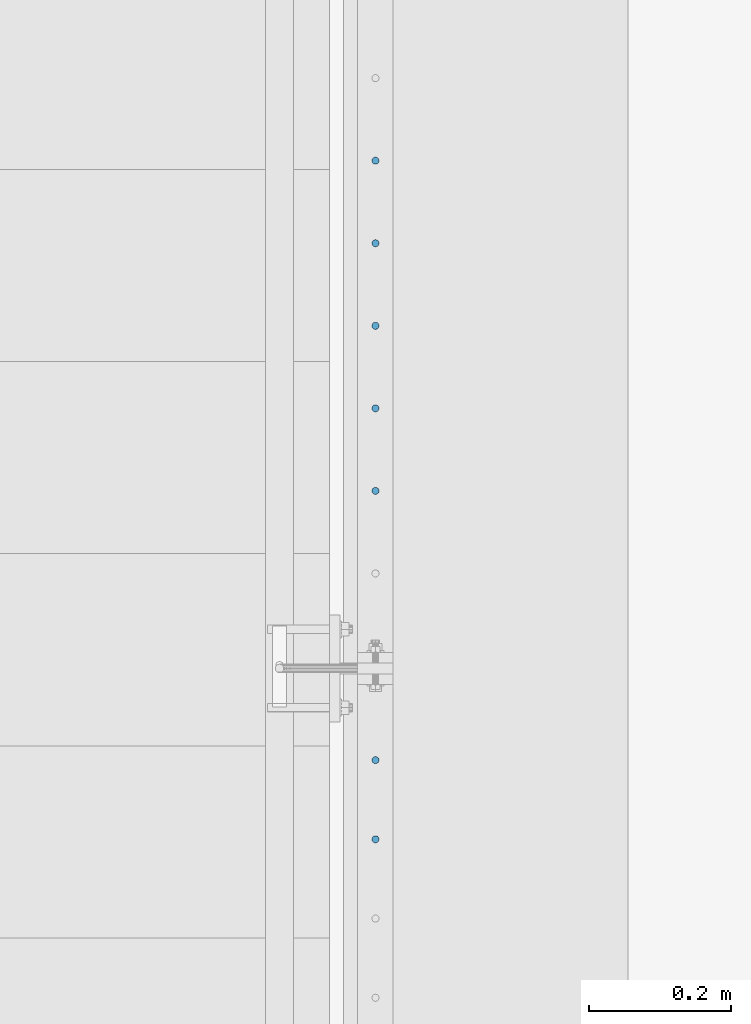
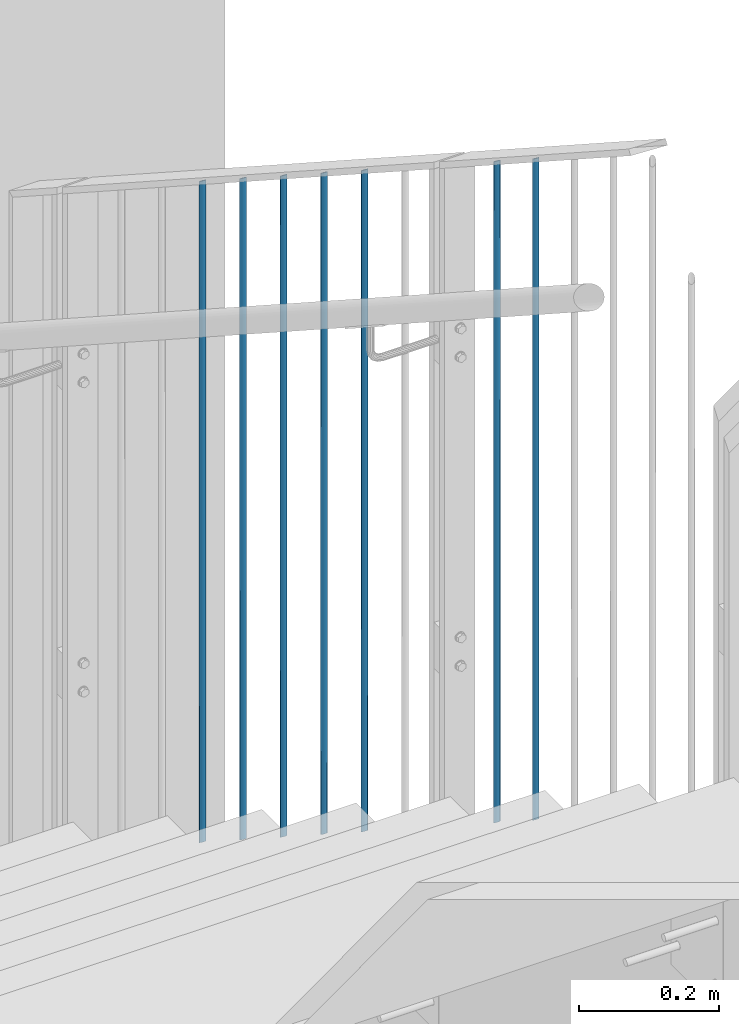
# One storey, part 46 of 296: 7 columns.
"""IFC2X3 building model written with IfcOpenShell, lengths in millimetres."""

from ifc_helpers import new_model, entity, si_unit, converted_unit, frame, origin, origin_with_axes, origin_2d, place, context, project, spatial, circle, extrude, clip, halfspace, material, element, save


model = new_model("IFC2X3")

# Units and contexts
model_context = context("Model", 3, precision=1e-09, world=origin_with_axes())
ifc_project = project(units=[si_unit("LENGTHUNIT", "METRE", prefix="MILLI"), si_unit("AREAUNIT", "SQUARE_METRE"), si_unit("VOLUMEUNIT", "CUBIC_METRE"), converted_unit("PLANEANGLEUNIT", "DEGREE", entity("IfcPlaneAngleMeasure", 0.01745329), si_unit("PLANEANGLEUNIT", "RADIAN"), dimensions=[0, 0, 0, 0, 0, 0, 0])], contexts=[model_context])

# Site, building, storey
site_placement = place(None, origin_with_axes())
site = spatial("IfcSite", under=ifc_project, at=site_placement, Name="TZD-S?d | Treppenhausgel?nder", CompositionType="ELEMENT")
building_placement = place(site_placement, origin_with_axes())
building = spatial("IfcBuilding", under=site, at=building_placement, Name="Struktur 1", CompositionType="ELEMENT")
storey_placement = place(building_placement, origin_with_axes())
storey = spatial("IfcBuildingStorey", under=building, at=storey_placement, Name="Default Storey", CompositionType="ELEMENT", Elevation=0.0)

# Columns
ifc_material = material(Name="S235JR")
column_1_placement = place(None, frame((5894.999, -1760.357143, 12952.691657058), z_axis=(0.0, 0.0, -1.0), x_axis=(0.0, 1.0, 0.0)))
element("IfcColumn", 1, at=column_1_placement, inside=storey, material=ifc_material, Name="-", ObjectType="-", context=model_context, shape_type="Clipping", body=[
    clip(clip(extrude(circle(Radius=5.0, at=origin_2d()), origin(), (0.0, 0.0, -1.0), 1184.934501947), halfspace(frame((7156.089022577, -5894.999, 4618.77459754), z_axis=(0.543478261, 0.0, -0.839423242), x_axis=(0.0, -1.0, 0.0)), True)), halfspace(frame((7683.544145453, -5894.999, 3804.099712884), z_axis=(-0.543478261, 0.0, 0.839423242), x_axis=(0.0, 1.0, 0.0)), True)),
])
column_2_placement = place(None, frame((5894.999, -1648.9285716, 12880.548067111), z_axis=(0.0, 0.0, -1.0), x_axis=(0.0, 1.0, 0.0)))
element("IfcColumn", 2, at=column_2_placement, inside=storey, material=ifc_material, Name="-", ObjectType="-", context=model_context, shape_type="Clipping", body=[
    clip(clip(extrude(circle(Radius=5.0, at=origin_2d()), origin(), (0.0, 0.0, -1.0), 1184.934501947), halfspace(frame((7044.660451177, -5894.999, 4546.631007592), z_axis=(0.543478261, 0.0, -0.839423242), x_axis=(0.0, -1.0, 0.0)), True)), halfspace(frame((7572.115574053, -5894.999, 3731.956122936), z_axis=(-0.543478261, 0.0, 0.839423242), x_axis=(0.0, 1.0, 0.0)), True)),
])
column_3_placement = place(None, frame((5894.999, -1270.2777778, 12635.39346037), z_axis=(0.0, 0.0, -1.0), x_axis=(0.0, 1.0, 0.0)))
element("IfcColumn", 3, at=column_3_placement, inside=storey, material=ifc_material, Name="-", ObjectType="-", context=model_context, shape_type="Clipping", body=[
    clip(clip(extrude(circle(Radius=5.0, at=origin_2d()), origin(), (0.0, 0.0, -1.0), 1184.934501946), halfspace(frame((6666.009657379, -5894.999, 4301.476400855), z_axis=(0.543478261, 0.0, -0.839423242), x_axis=(0.0, -1.0, 0.0)), True)), halfspace(frame((7193.464780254, -5894.999, 3486.801516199), z_axis=(-0.543478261, 0.0, 0.839423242), x_axis=(0.0, 1.0, 0.0)), True)),
])
column_4_placement = place(None, frame((5894.999, -1154.1666667, 12560.218195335), z_axis=(0.0, 0.0, -1.0), x_axis=(0.0, 1.0, 0.0)))
element("IfcColumn", 4, at=column_4_placement, inside=storey, material=ifc_material, Name="-", ObjectType="-", context=model_context, shape_type="Clipping", body=[
    clip(clip(extrude(circle(Radius=5.0, at=origin_2d()), origin(), (0.0, 0.0, -1.0), 1184.934501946), halfspace(frame((7077.353669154, -5894.999, 3411.626251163), z_axis=(-0.543478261, 0.0, 0.839423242), x_axis=(0.0, 1.0, 0.0)), True)), halfspace(frame((6549.898546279, -5894.999, 4226.30113582), z_axis=(0.543478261, 0.0, -0.839423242), x_axis=(0.0, -1.0, 0.0)), True)),
])
column_5_placement = place(None, frame((5894.999, -1038.0555556, 12485.042930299), z_axis=(0.0, 0.0, -1.0), x_axis=(0.0, 1.0, 0.0)))
element("IfcColumn", 5, at=column_5_placement, inside=storey, material=ifc_material, Name="-", ObjectType="-", context=model_context, shape_type="Clipping", body=[
    clip(clip(extrude(circle(Radius=5.0, at=origin_2d()), origin(), (0.0, 0.0, -1.0), 1184.934501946), halfspace(frame((6433.787435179, -5894.999, 4151.125870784), z_axis=(0.543478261, 0.0, -0.839423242), x_axis=(0.0, -1.0, 0.0)), True)), halfspace(frame((6961.242558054, -5894.999, 3336.450986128), z_axis=(-0.543478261, 0.0, 0.839423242), x_axis=(0.0, 1.0, 0.0)), True)),
])
column_6_placement = place(None, frame((5894.999, -921.9444445, 12409.867665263), z_axis=(0.0, 0.0, -1.0), x_axis=(0.0, 1.0, 0.0)))
element("IfcColumn", 6, at=column_6_placement, inside=storey, material=ifc_material, Name="-", ObjectType="-", context=model_context, shape_type="Clipping", body=[
    clip(clip(extrude(circle(Radius=5.0, at=origin_2d()), origin(), (0.0, 0.0, -1.0), 1184.934501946), halfspace(frame((6845.131446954, -5894.999, 3261.275721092), z_axis=(-0.543478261, 0.0, 0.839423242), x_axis=(0.0, 1.0, 0.0)), True)), halfspace(frame((6317.676324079, -5894.999, 4075.950605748), z_axis=(0.543478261, 0.0, -0.839423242), x_axis=(0.0, -1.0, 0.0)), True)),
])
column_7_placement = place(None, frame((5894.999, -805.8333334, 12334.692400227), z_axis=(0.0, 0.0, -1.0), x_axis=(0.0, 1.0, 0.0)))
element("IfcColumn", 7, at=column_7_placement, inside=storey, material=ifc_material, Name="-", ObjectType="-", context=model_context, shape_type="Clipping", body=[
    clip(clip(extrude(circle(Radius=5.0, at=origin_2d()), origin(), (0.0, 0.0, -1.0), 1184.934501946), halfspace(frame((6729.020335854, -5894.999, 3186.100456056), z_axis=(-0.543478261, 0.0, 0.839423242), x_axis=(0.0, 1.0, 0.0)), True)), halfspace(frame((6201.565212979, -5894.999, 4000.775340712), z_axis=(0.543478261, 0.0, -0.839423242), x_axis=(0.0, -1.0, 0.0)), True)),
])

save(model, "model.ifc")
